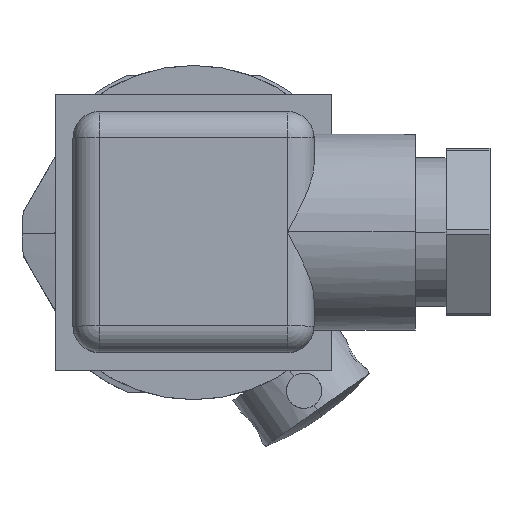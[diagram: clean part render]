
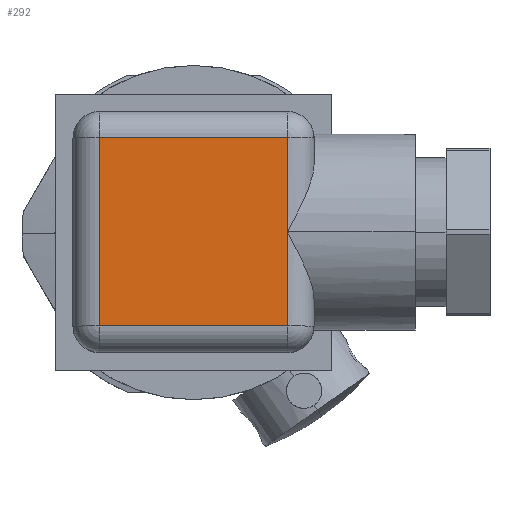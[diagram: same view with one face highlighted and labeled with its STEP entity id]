
A CAD part, top view. The second image highlights one B-rep face of the part: STEP entity #292.
In plain terms, the highlighted planar face has unit normal (0, 0, 1).
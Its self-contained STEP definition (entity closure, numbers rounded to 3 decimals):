
#292=ADVANCED_FACE('',(#646),#647,.T.);
#646=FACE_OUTER_BOUND('',#1057,.T.);
#647=PLANE('',#1058);
#1057=EDGE_LOOP('',(#1834,#1835,#1836,#1837,#1838));
#1058=AXIS2_PLACEMENT_3D('',#1839,#1840,#1841);
#1834=ORIENTED_EDGE('',*,*,#2661,.T.);
#1835=ORIENTED_EDGE('',*,*,#2654,.T.);
#1836=ORIENTED_EDGE('',*,*,#2640,.T.);
#1837=ORIENTED_EDGE('',*,*,#2638,.T.);
#1838=ORIENTED_EDGE('',*,*,#2668,.T.);
#1839=CARTESIAN_POINT('',(0.0,0.0,50.9));
#1840=DIRECTION('',(0.0,0.0,1.0));
#1841=DIRECTION('',(-1.0,0.,0.0));
#2638=EDGE_CURVE('',#2967,#3205,#3207,.T.);
#2640=EDGE_CURVE('',#3209,#2967,#3210,.T.);
#2654=EDGE_CURVE('',#3229,#3209,#3230,.T.);
#2661=EDGE_CURVE('',#3239,#3229,#3240,.T.);
#2668=EDGE_CURVE('',#3205,#3239,#3249,.T.);
#2967=VERTEX_POINT('',#3665);
#3205=VERTEX_POINT('',#4334);
#3207=LINE('',#4336,#4337);
#3209=VERTEX_POINT('',#4339);
#3210=LINE('',#4340,#4341);
#3229=VERTEX_POINT('',#4366);
#3230=LINE('',#4367,#4368);
#3239=VERTEX_POINT('',#4378);
#3240=LINE('',#4379,#4380);
#3249=LINE('',#4390,#4391);
#3665=CARTESIAN_POINT('',(10.688,0.,50.9));
#4334=CARTESIAN_POINT('',(10.688,10.688,50.9));
#4336=CARTESIAN_POINT('',(10.688,0.,50.9));
#4337=VECTOR('',#5079,1.0);
#4339=CARTESIAN_POINT('',(10.688,-10.688,50.9));
#4340=CARTESIAN_POINT('',(10.688,0.,50.9));
#4341=VECTOR('',#5080,1.0);
#4366=CARTESIAN_POINT('',(-10.688,-10.688,50.9));
#4367=CARTESIAN_POINT('',(0.,-10.688,50.9));
#4368=VECTOR('',#5096,1.0);
#4378=CARTESIAN_POINT('',(-10.688,10.688,50.9));
#4379=CARTESIAN_POINT('',(-10.688,0.,50.9));
#4380=VECTOR('',#5107,1.0);
#4390=CARTESIAN_POINT('',(0.,10.688,50.9));
#4391=VECTOR('',#5118,1.0);
#5079=DIRECTION('',(0.,1.0,0.0));
#5080=DIRECTION('',(0.,1.0,0.0));
#5096=DIRECTION('',(1.0,0.,0.0));
#5107=DIRECTION('',(0.,-1.0,0.0));
#5118=DIRECTION('',(-1.0,0.,0.0));
